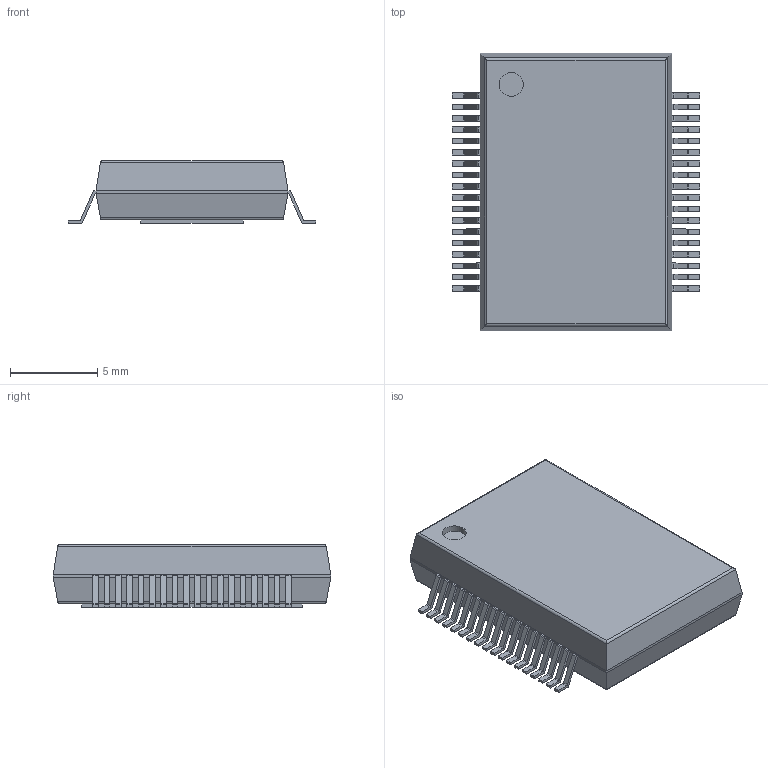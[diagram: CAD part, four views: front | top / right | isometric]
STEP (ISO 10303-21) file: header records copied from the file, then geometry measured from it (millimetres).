
FILE_DESCRIPTION(('FreeCAD Model'),'2;1');
FILE_NAME('/var/www/3D/0T/379743.1.1.stp','2018-01-09T23:01:31',( 'Author'),(''),'Open CASCADE STEP processor 6.8','FreeCAD','Unknown' );
FILE_SCHEMA(('AUTOMOTIVE_DESIGN_CC2 { 1 2 10303 214 -1 1 5 4 }'));
Length unit declared in the file: millimetre
Products named in the file (4): ASSEMBLY; Body; PinsArrayLR; ThermalPad
Assembly tree (3 placements, depth 2):
  ASSEMBLY
    Body
    PinsArrayLR
    ThermalPad
Bounding box: 14.2 x 15.9 x 3.6 mm (x, y, z)
Volume: 589.8 mm3; surface area: 750.7 mm2
Topology: 38 solids, 38 shells, 498 faces, 1247 edges, 826 vertices
Faces by surface type: plane 381, cylinder 117
Full cylindrical faces by diameter (mm): 1.375 x1
Entity records: 31643 total; most frequent: CARTESIAN_POINT 5919, DIRECTION 4773, LINE 3207, VECTOR 3207, ORIENTED_EDGE 2494, PCURVE 2494, DEFINITIONAL_REPRESENTATION 2494, EDGE_CURVE 1247
